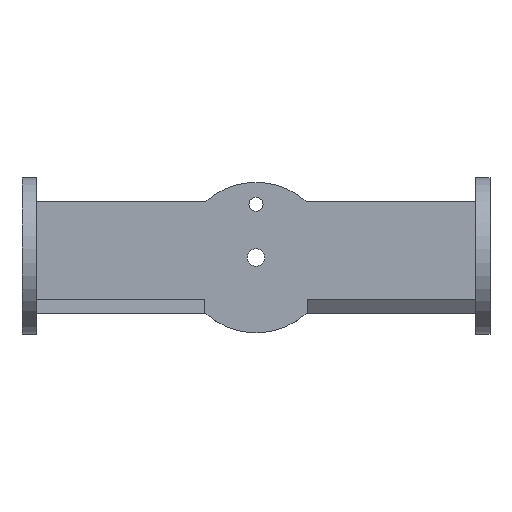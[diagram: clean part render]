
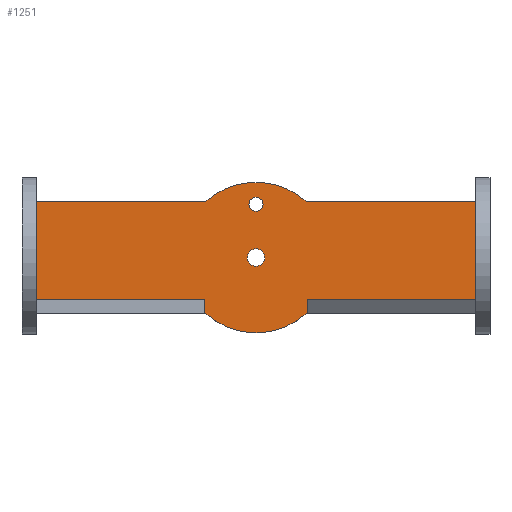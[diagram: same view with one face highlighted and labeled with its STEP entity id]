
A CAD part, top view. The second image highlights one B-rep face of the part: STEP entity #1251.
In plain terms, the highlighted planar face has unit normal (0, 0, 1).
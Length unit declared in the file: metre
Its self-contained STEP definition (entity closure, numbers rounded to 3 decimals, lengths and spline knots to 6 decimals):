
#21=CIRCLE('',#1377,0.017033);
#23=CIRCLE('',#1383,0.017033);
#24=CIRCLE('',#1385,0.001975);
#26=CIRCLE('',#1388,0.001588);
#94=ORIENTED_EDGE('',*,*,#438,.T.);
#95=ORIENTED_EDGE('',*,*,#439,.F.);
#96=ORIENTED_EDGE('',*,*,#440,.T.);
#97=ORIENTED_EDGE('',*,*,#441,.T.);
#98=ORIENTED_EDGE('',*,*,#403,.F.);
#99=ORIENTED_EDGE('',*,*,#442,.F.);
#100=ORIENTED_EDGE('',*,*,#443,.T.);
#101=ORIENTED_EDGE('',*,*,#444,.T.);
#102=ORIENTED_EDGE('',*,*,#430,.F.);
#103=ORIENTED_EDGE('',*,*,#433,.F.);
#104=ORIENTED_EDGE('',*,*,#435,.T.);
#105=ORIENTED_EDGE('',*,*,#414,.F.);
#106=ORIENTED_EDGE('',*,*,#418,.T.);
#107=ORIENTED_EDGE('',*,*,#445,.F.);
#108=ORIENTED_EDGE('',*,*,#446,.T.);
#109=ORIENTED_EDGE('',*,*,#447,.T.);
#110=ORIENTED_EDGE('',*,*,#407,.T.);
#111=ORIENTED_EDGE('',*,*,#448,.F.);
#112=ORIENTED_EDGE('',*,*,#449,.T.);
#113=ORIENTED_EDGE('',*,*,#450,.T.);
#114=ORIENTED_EDGE('',*,*,#411,.T.);
#115=ORIENTED_EDGE('',*,*,#421,.T.);
#116=ORIENTED_EDGE('',*,*,#424,.T.);
#117=ORIENTED_EDGE('',*,*,#426,.T.);
#118=ORIENTED_EDGE('',*,*,#398,.F.);
#119=ORIENTED_EDGE('',*,*,#436,.F.);
#398=EDGE_CURVE('',#574,#575,#694,.T.);
#403=EDGE_CURVE('',#579,#577,#699,.T.);
#407=EDGE_CURVE('',#581,#583,#703,.T.);
#411=EDGE_CURVE('',#585,#587,#707,.T.);
#414=EDGE_CURVE('',#590,#591,#710,.T.);
#418=EDGE_CURVE('',#590,#593,#714,.T.);
#421=EDGE_CURVE('',#587,#595,#717,.T.);
#424=EDGE_CURVE('',#595,#597,#21,.T.);
#426=EDGE_CURVE('',#597,#575,#720,.T.);
#430=EDGE_CURVE('',#601,#599,#724,.T.);
#433=EDGE_CURVE('',#603,#601,#727,.T.);
#435=EDGE_CURVE('',#603,#591,#23,.T.);
#436=EDGE_CURVE('',#604,#604,#24,.T.);
#438=EDGE_CURVE('',#606,#606,#26,.T.);
#439=EDGE_CURVE('',#607,#574,#728,.T.);
#440=EDGE_CURVE('',#607,#608,#729,.T.);
#441=EDGE_CURVE('',#608,#577,#730,.T.);
#442=EDGE_CURVE('',#609,#579,#731,.T.);
#443=EDGE_CURVE('',#609,#610,#732,.T.);
#444=EDGE_CURVE('',#610,#599,#733,.T.);
#445=EDGE_CURVE('',#611,#593,#734,.T.);
#446=EDGE_CURVE('',#611,#612,#735,.T.);
#447=EDGE_CURVE('',#612,#581,#736,.T.);
#448=EDGE_CURVE('',#613,#583,#737,.T.);
#449=EDGE_CURVE('',#613,#614,#738,.T.);
#450=EDGE_CURVE('',#614,#585,#739,.T.);
#574=VERTEX_POINT('',#1806);
#575=VERTEX_POINT('',#1808);
#577=VERTEX_POINT('',#1813);
#579=VERTEX_POINT('',#1817);
#581=VERTEX_POINT('',#1822);
#583=VERTEX_POINT('',#1826);
#585=VERTEX_POINT('',#1831);
#587=VERTEX_POINT('',#1835);
#590=VERTEX_POINT('',#1842);
#591=VERTEX_POINT('',#1844);
#593=VERTEX_POINT('',#1850);
#595=VERTEX_POINT('',#1856);
#597=VERTEX_POINT('',#1862);
#599=VERTEX_POINT('',#1870);
#601=VERTEX_POINT('',#1874);
#603=VERTEX_POINT('',#1880);
#604=VERTEX_POINT('',#1887);
#606=VERTEX_POINT('',#1892);
#607=VERTEX_POINT('',#1894);
#608=VERTEX_POINT('',#1896);
#609=VERTEX_POINT('',#1899);
#610=VERTEX_POINT('',#1901);
#611=VERTEX_POINT('',#1904);
#612=VERTEX_POINT('',#1906);
#613=VERTEX_POINT('',#1909);
#614=VERTEX_POINT('',#1911);
#694=LINE('',#1807,#854);
#699=LINE('',#1818,#859);
#703=LINE('',#1827,#863);
#707=LINE('',#1836,#867);
#710=LINE('',#1843,#870);
#714=LINE('',#1851,#874);
#717=LINE('',#1857,#877);
#720=LINE('',#1866,#880);
#724=LINE('',#1875,#884);
#727=LINE('',#1881,#887);
#728=LINE('',#1893,#888);
#729=LINE('',#1895,#889);
#730=LINE('',#1897,#890);
#731=LINE('',#1898,#891);
#732=LINE('',#1900,#892);
#733=LINE('',#1902,#893);
#734=LINE('',#1903,#894);
#735=LINE('',#1905,#895);
#736=LINE('',#1907,#896);
#737=LINE('',#1908,#897);
#738=LINE('',#1910,#898);
#739=LINE('',#1912,#899);
#854=VECTOR('',#1464,1.);
#859=VECTOR('',#1471,1.);
#863=VECTOR('',#1477,1.);
#867=VECTOR('',#1483,1.);
#870=VECTOR('',#1488,1.);
#874=VECTOR('',#1494,1.);
#877=VECTOR('',#1499,1.);
#880=VECTOR('',#1510,1.);
#884=VECTOR('',#1516,1.);
#887=VECTOR('',#1521,1.);
#888=VECTOR('',#1538,1.);
#889=VECTOR('',#1539,1.);
#890=VECTOR('',#1540,1.);
#891=VECTOR('',#1541,1.);
#892=VECTOR('',#1542,1.);
#893=VECTOR('',#1543,1.);
#894=VECTOR('',#1544,1.);
#895=VECTOR('',#1545,1.);
#896=VECTOR('',#1546,1.);
#897=VECTOR('',#1547,1.);
#898=VECTOR('',#1548,1.);
#899=VECTOR('',#1549,1.);
#1026=EDGE_LOOP('',(#94));
#1027=EDGE_LOOP('',(#95,#96,#97,#98,#99,#100,#101,#102,#103,#104,#105,#106,
#107,#108,#109,#110,#111,#112,#113,#114,#115,#116,#117,#118));
#1028=EDGE_LOOP('',(#119));
#1108=FACE_BOUND('',#1026,.T.);
#1109=FACE_BOUND('',#1027,.T.);
#1110=FACE_BOUND('',#1028,.T.);
#1186=PLANE('',#1387);
#1251=ADVANCED_FACE('',(#1108,#1109,#1110),#1186,.T.);
#1377=AXIS2_PLACEMENT_3D('',#1863,#1505,#1506);
#1383=AXIS2_PLACEMENT_3D('',#1884,#1526,#1527);
#1385=AXIS2_PLACEMENT_3D('',#1886,#1530,#1531);
#1387=AXIS2_PLACEMENT_3D('',#1890,#1534,#1535);
#1388=AXIS2_PLACEMENT_3D('',#1891,#1536,#1537);
#1464=DIRECTION('',(0.,-1.,0.));
#1471=DIRECTION('',(0.,-1.,0.));
#1477=DIRECTION('',(0.,-1.,0.));
#1483=DIRECTION('',(0.,-1.,0.));
#1488=DIRECTION('',(1.,0.,0.));
#1494=DIRECTION('',(0.,-1.,0.));
#1499=DIRECTION('',(1.,0.,0.));
#1505=DIRECTION('',(0.,0.,1.));
#1506=DIRECTION('',(1.,0.,0.));
#1510=DIRECTION('',(1.,0.,0.));
#1516=DIRECTION('',(0.,-1.,0.));
#1521=DIRECTION('',(1.,0.,0.));
#1526=DIRECTION('',(0.,0.,1.));
#1527=DIRECTION('',(1.,0.,0.));
#1530=DIRECTION('',(0.,0.,1.));
#1531=DIRECTION('',(1.,0.,0.));
#1534=DIRECTION('',(0.,0.,1.));
#1535=DIRECTION('',(1.,0.,0.));
#1536=DIRECTION('',(0.,0.,-1.));
#1537=DIRECTION('',(-1.,0.,0.));
#1538=DIRECTION('',(1.,0.,0.));
#1539=DIRECTION('',(0.,1.,0.));
#1540=DIRECTION('',(1.,0.,0.));
#1541=DIRECTION('',(1.,0.,0.));
#1542=DIRECTION('',(0.,1.,0.));
#1543=DIRECTION('',(1.,0.,0.));
#1544=DIRECTION('',(-1.,0.,0.));
#1545=DIRECTION('',(0.,-1.,0.));
#1546=DIRECTION('',(-1.,0.,0.));
#1547=DIRECTION('',(-1.,0.,0.));
#1548=DIRECTION('',(0.,-1.,0.));
#1549=DIRECTION('',(-1.,0.,0.));
#1806=CARTESIAN_POINT('',(0.052975,-0.00762,0.003175));
#1807=CARTESIAN_POINT('',(0.052975,0.,0.003175));
#1808=CARTESIAN_POINT('',(0.052975,-0.0127,0.003175));
#1813=CARTESIAN_POINT('',(0.052975,-0.00254,0.003175));
#1817=CARTESIAN_POINT('',(0.052975,0.00254,0.003175));
#1818=CARTESIAN_POINT('',(0.052975,0.,0.003175));
#1822=CARTESIAN_POINT('',(-0.052975,0.00254,0.003175));
#1826=CARTESIAN_POINT('',(-0.052975,-0.00254,0.003175));
#1827=CARTESIAN_POINT('',(-0.052975,0.,0.003175));
#1831=CARTESIAN_POINT('',(-0.052975,-0.00762,0.003175));
#1835=CARTESIAN_POINT('',(-0.052975,-0.0127,0.003175));
#1836=CARTESIAN_POINT('',(-0.052975,0.,0.003175));
#1842=CARTESIAN_POINT('',(-0.052975,0.0127,0.003175));
#1843=CARTESIAN_POINT('',(-0.032163,0.0127,0.003175));
#1844=CARTESIAN_POINT('',(-0.011351,0.0127,0.003175));
#1850=CARTESIAN_POINT('',(-0.052975,0.00762,0.003175));
#1851=CARTESIAN_POINT('',(-0.052975,0.,0.003175));
#1856=CARTESIAN_POINT('',(-0.011351,-0.0127,0.003175));
#1857=CARTESIAN_POINT('',(-0.032163,-0.0127,0.003175));
#1862=CARTESIAN_POINT('',(0.011351,-0.0127,0.003175));
#1863=CARTESIAN_POINT('',(0.,0.,0.003175));
#1866=CARTESIAN_POINT('',(0.032163,-0.0127,0.003175));
#1870=CARTESIAN_POINT('',(0.052975,0.00762,0.003175));
#1874=CARTESIAN_POINT('',(0.052975,0.0127,0.003175));
#1875=CARTESIAN_POINT('',(0.052975,0.,0.003175));
#1880=CARTESIAN_POINT('',(0.011351,0.0127,0.003175));
#1881=CARTESIAN_POINT('',(0.032163,0.0127,0.003175));
#1884=CARTESIAN_POINT('',(0.,0.,0.003175));
#1886=CARTESIAN_POINT('',(0.,0.,0.003175));
#1887=CARTESIAN_POINT('',(0.001975,0.,0.003175));
#1890=CARTESIAN_POINT('',(0.,0.,0.003175));
#1891=CARTESIAN_POINT('',(0.,0.012033,0.003175));
#1892=CARTESIAN_POINT('',(-0.001588,0.012033,0.003175));
#1893=CARTESIAN_POINT('',(0.,-0.00762,0.003175));
#1894=CARTESIAN_POINT('',(0.0498,-0.00762,0.003175));
#1895=CARTESIAN_POINT('',(0.0498,0.,0.003175));
#1896=CARTESIAN_POINT('',(0.0498,-0.00254,0.003175));
#1897=CARTESIAN_POINT('',(0.,-0.00254,0.003175));
#1898=CARTESIAN_POINT('',(0.,0.00254,0.003175));
#1899=CARTESIAN_POINT('',(0.0498,0.00254,0.003175));
#1900=CARTESIAN_POINT('',(0.0498,0.,0.003175));
#1901=CARTESIAN_POINT('',(0.0498,0.00762,0.003175));
#1902=CARTESIAN_POINT('',(0.,0.00762,0.003175));
#1903=CARTESIAN_POINT('',(0.,0.00762,0.003175));
#1904=CARTESIAN_POINT('',(-0.0498,0.00762,0.003175));
#1905=CARTESIAN_POINT('',(-0.0498,0.,0.003175));
#1906=CARTESIAN_POINT('',(-0.0498,0.00254,0.003175));
#1907=CARTESIAN_POINT('',(0.,0.00254,0.003175));
#1908=CARTESIAN_POINT('',(0.,-0.00254,0.003175));
#1909=CARTESIAN_POINT('',(-0.0498,-0.00254,0.003175));
#1910=CARTESIAN_POINT('',(-0.0498,0.,0.003175));
#1911=CARTESIAN_POINT('',(-0.0498,-0.00762,0.003175));
#1912=CARTESIAN_POINT('',(0.,-0.00762,0.003175));
